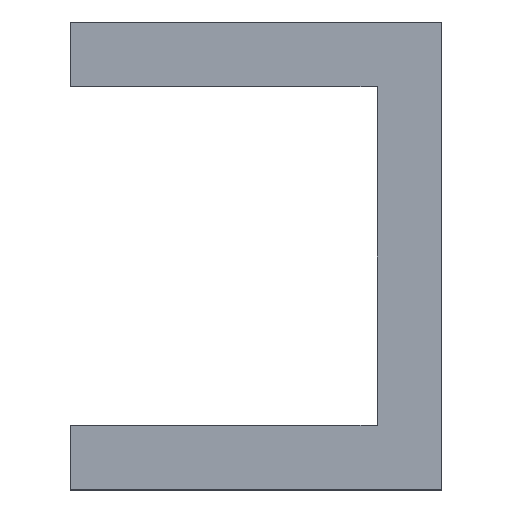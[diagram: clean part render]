
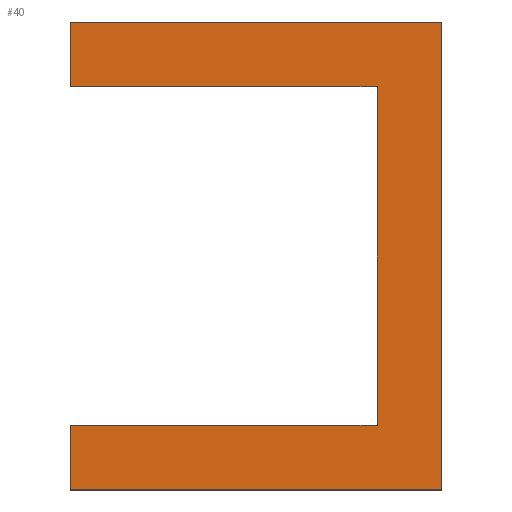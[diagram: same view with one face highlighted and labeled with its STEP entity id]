
A CAD part, left-side view. The second image highlights one B-rep face of the part: STEP entity #40.
In plain terms, the highlighted planar face has unit normal (-1, 0, 0).
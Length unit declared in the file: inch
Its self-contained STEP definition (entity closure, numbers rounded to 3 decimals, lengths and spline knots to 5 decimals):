
#14 = DIRECTION ( 'NONE',  ( 0., -1., 0. ) ) ;
#17 = VERTEX_POINT ( 'NONE', #26 ) ;
#22 = CARTESIAN_POINT ( 'NONE',  ( -1.63098, 0., -0.2625 ) ) ;
#24 = ORIENTED_EDGE ( 'NONE', *, *, #325, .F. ) ;
#26 = CARTESIAN_POINT ( 'NONE',  ( -1.63098, -0.1, 0.3625 ) ) ;
#34 = LINE ( 'NONE', #396, #49 ) ;
#40 = ADVANCED_FACE ( 'NONE', ( #425 ), #245, .F. ) ;
#43 = EDGE_CURVE ( 'NONE', #329, #407, #286, .T. ) ;
#45 = DIRECTION ( 'NONE',  ( 0., 1., 0. ) ) ;
#46 = VERTEX_POINT ( 'NONE', #345 ) ;
#49 = VECTOR ( 'NONE', #332, 39.37008 ) ;
#55 = CARTESIAN_POINT ( 'NONE',  ( -1.63098, 0.475, -0.2625 ) ) ;
#65 = DIRECTION ( 'NONE',  ( 0., -1., 0. ) ) ;
#67 = CARTESIAN_POINT ( 'NONE',  ( -1.63098, 0.475, -0.2625 ) ) ;
#72 = VECTOR ( 'NONE', #65, 39.37008 ) ;
#76 = CARTESIAN_POINT ( 'NONE',  ( -1.63098, 0.475, 0.3625 ) ) ;
#77 = EDGE_CURVE ( 'NONE', #327, #269, #93, .T. ) ;
#93 = LINE ( 'NONE', #309, #398 ) ;
#106 = LINE ( 'NONE', #250, #439 ) ;
#115 = ORIENTED_EDGE ( 'NONE', *, *, #212, .F. ) ;
#118 = VECTOR ( 'NONE', #274, 39.37008 ) ;
#121 = CARTESIAN_POINT ( 'NONE',  ( -1.63098, 0., -0.2625 ) ) ;
#126 = CARTESIAN_POINT ( 'NONE',  ( -1.63098, -0.1, 0.3625 ) ) ;
#128 = VECTOR ( 'NONE', #14, 39.37008 ) ;
#131 = EDGE_LOOP ( 'NONE', ( #161, #378, #24, #184, #115, #152, #138, #229 ) ) ;
#136 = EDGE_CURVE ( 'NONE', #269, #17, #422, .T. ) ;
#138 = ORIENTED_EDGE ( 'NONE', *, *, #141, .F. ) ;
#140 = CARTESIAN_POINT ( 'NONE',  ( -1.63098, -0.53444, -0.2625 ) ) ;
#141 = EDGE_CURVE ( 'NONE', #17, #407, #163, .T. ) ;
#152 = ORIENTED_EDGE ( 'NONE', *, *, #43, .T. ) ;
#161 = ORIENTED_EDGE ( 'NONE', *, *, #77, .F. ) ;
#163 = LINE ( 'NONE', #126, #360 ) ;
#164 = VERTEX_POINT ( 'NONE', #67 ) ;
#166 = DIRECTION ( 'NONE',  ( 0., 0., -1. ) ) ;
#184 = ORIENTED_EDGE ( 'NONE', *, *, #281, .T. ) ;
#202 = DIRECTION ( 'NONE',  ( 0., 0., -1. ) ) ;
#212 = EDGE_CURVE ( 'NONE', #329, #164, #34, .T. ) ;
#229 = ORIENTED_EDGE ( 'NONE', *, *, #136, .F. ) ;
#244 = CARTESIAN_POINT ( 'NONE',  ( -1.63098, 0.475, 0.3625 ) ) ;
#245 = PLANE ( 'NONE',  #272 ) ;
#250 = CARTESIAN_POINT ( 'NONE',  ( -1.63098, -0.53444, 0.2625 ) ) ;
#268 = CARTESIAN_POINT ( 'NONE',  ( -1.63098, 0.475, 0.2625 ) ) ;
#269 = VERTEX_POINT ( 'NONE', #76 ) ;
#272 = AXIS2_PLACEMENT_3D ( 'NONE', #55, #275, #202 ) ;
#274 = DIRECTION ( 'NONE',  ( 0., 0., 1. ) ) ;
#275 = DIRECTION ( 'NONE',  ( 1., 0., 0. ) ) ;
#281 = EDGE_CURVE ( 'NONE', #442, #164, #318, .T. ) ;
#286 = LINE ( 'NONE', #319, #72 ) ;
#309 = CARTESIAN_POINT ( 'NONE',  ( -1.63098, 0.475, -0.2625 ) ) ;
#318 = LINE ( 'NONE', #140, #351 ) ;
#319 = CARTESIAN_POINT ( 'NONE',  ( -1.63098, 0.475, -0.3625 ) ) ;
#325 = EDGE_CURVE ( 'NONE', #442, #46, #343, .T. ) ;
#327 = VERTEX_POINT ( 'NONE', #268 ) ;
#329 = VERTEX_POINT ( 'NONE', #415 ) ;
#332 = DIRECTION ( 'NONE',  ( 0., 0., 1. ) ) ;
#343 = LINE ( 'NONE', #121, #118 ) ;
#345 = CARTESIAN_POINT ( 'NONE',  ( -1.63098, 0., 0.2625 ) ) ;
#351 = VECTOR ( 'NONE', #45, 39.37008 ) ;
#360 = VECTOR ( 'NONE', #166, 39.37008 ) ;
#378 = ORIENTED_EDGE ( 'NONE', *, *, #436, .F. ) ;
#396 = CARTESIAN_POINT ( 'NONE',  ( -1.63098, 0.475, -0.2625 ) ) ;
#398 = VECTOR ( 'NONE', #463, 39.37008 ) ;
#407 = VERTEX_POINT ( 'NONE', #465 ) ;
#415 = CARTESIAN_POINT ( 'NONE',  ( -1.63098, 0.475, -0.3625 ) ) ;
#422 = LINE ( 'NONE', #244, #128 ) ;
#425 = FACE_OUTER_BOUND ( 'NONE', #131, .T. ) ;
#429 = DIRECTION ( 'NONE',  ( 0., 1., 0. ) ) ;
#436 = EDGE_CURVE ( 'NONE', #46, #327, #106, .T. ) ;
#439 = VECTOR ( 'NONE', #429, 39.37008 ) ;
#442 = VERTEX_POINT ( 'NONE', #22 ) ;
#463 = DIRECTION ( 'NONE',  ( 0., 0., 1. ) ) ;
#465 = CARTESIAN_POINT ( 'NONE',  ( -1.63098, -0.1, -0.3625 ) ) ;
